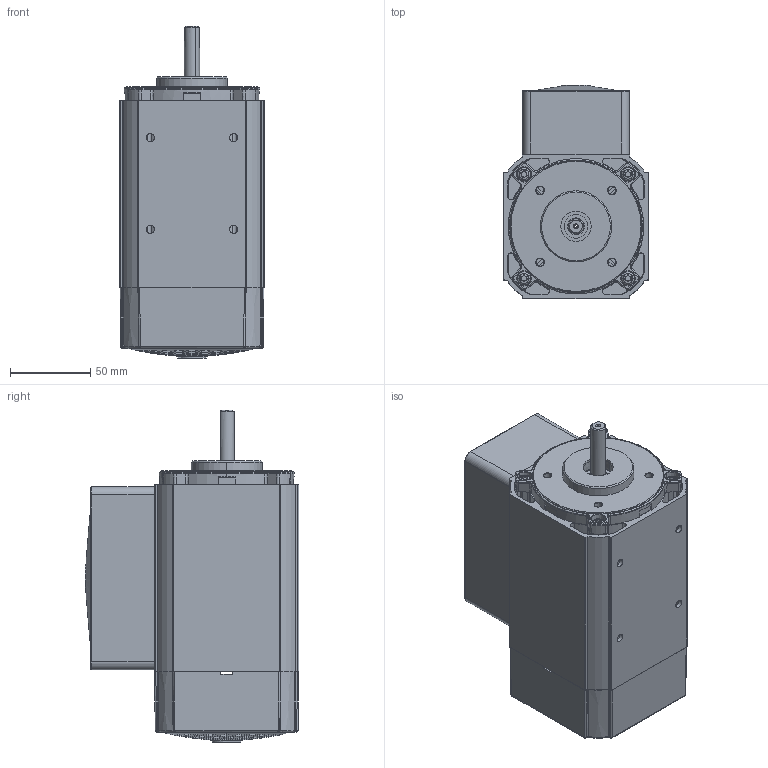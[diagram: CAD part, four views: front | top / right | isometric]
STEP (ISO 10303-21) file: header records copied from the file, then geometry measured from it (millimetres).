
FILE_DESCRIPTION (( 'STEP AP203' ), '1' );
FILE_NAME ('OUTLINE AC8040FC.STEP', '2006-09-21T13:57:41', ( 'Groschopp' ), ( 'Groschopp' ), 'SwSTEP 2.0', 'SolidWorks 2007', '' );
FILE_SCHEMA (( 'CONFIG_CONTROL_DESIGN' ));
Length unit declared in the file: inch
Products named in the file (1): OUTLINE AC8040FC
Bounding box: 90.25 x 133.49 x 207.47 mm (x, y, z)
Surface area: 170540 mm2 (no closed solid volume)
Topology: 0 solids, 30 shells, 1039 faces, 3390 edges, 2301 vertices
Faces by surface type: plane 601, cylinder 236, bspline 78, cone 59, torus 55, sphere 10
Entity records: 40374 total; most frequent: CARTESIAN_POINT 10813, DIRECTION 6535, ORIENTED_EDGE 5637, EDGE_CURVE 3374, AXIS2_PLACEMENT_3D 2591, VERTEX_POINT 2301, CIRCLE 1629, VECTOR 1353
